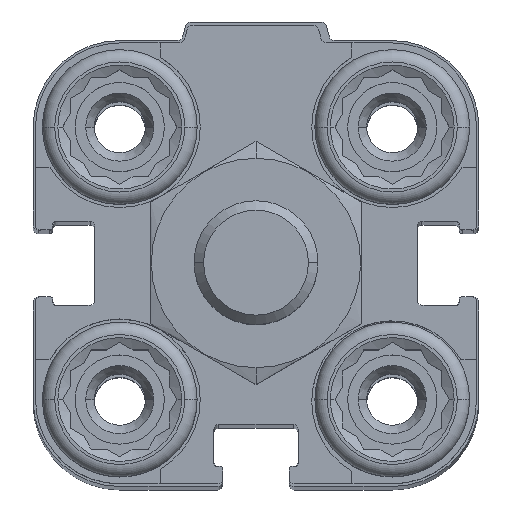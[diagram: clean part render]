
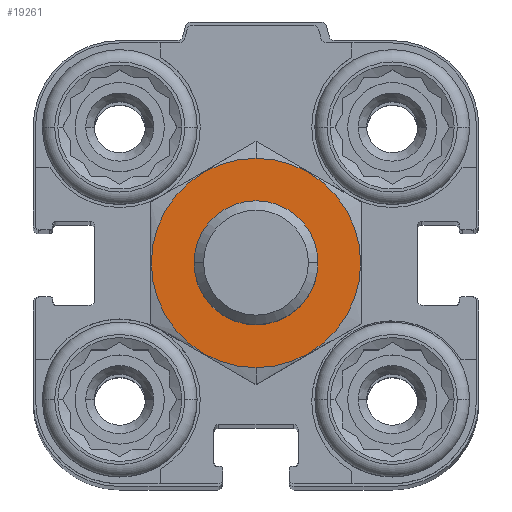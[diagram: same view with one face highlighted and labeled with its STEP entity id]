
A CAD part, top view. The second image highlights one B-rep face of the part: STEP entity #19261.
In plain terms, the highlighted planar face has unit normal (0, 0, 1).
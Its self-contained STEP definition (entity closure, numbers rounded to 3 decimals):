
#1237 = VERTEX_POINT ( 'NONE', #4357 ) ;
#1349 = DIRECTION ( 'NONE',  ( 0., 0., -1. ) ) ;
#1791 = ORIENTED_EDGE ( 'NONE', *, *, #2928, .F. ) ;
#2866 = ORIENTED_EDGE ( 'NONE', *, *, #15396, .T. ) ;
#2928 = EDGE_CURVE ( 'NONE', #3763, #1237, #12877, .T. ) ;
#3064 = CARTESIAN_POINT ( 'NONE',  ( 0., 0., 13.5 ) ) ;
#3763 = VERTEX_POINT ( 'NONE', #10297 ) ;
#4357 = CARTESIAN_POINT ( 'NONE',  ( 0., -8.45, 13.5 ) ) ;
#7074 = AXIS2_PLACEMENT_3D ( 'NONE', #20244, #15302, #13765 ) ;
#7245 = ORIENTED_EDGE ( 'NONE', *, *, #20298, .F. ) ;
#7817 = CARTESIAN_POINT ( 'NONE',  ( 0., 0., 13.5 ) ) ;
#8078 = VERTEX_POINT ( 'NONE', #8638 ) ;
#8110 = DIRECTION ( 'NONE',  ( 0., 0., -1. ) ) ;
#8166 = DIRECTION ( 'NONE',  ( 0., 0., -1. ) ) ;
#8195 = EDGE_CURVE ( 'NONE', #8726, #8078, #8381, .T. ) ;
#8372 = CARTESIAN_POINT ( 'NONE',  ( 0., 0., 13.5 ) ) ;
#8381 = CIRCLE ( 'NONE', #9707, 5. ) ;
#8638 = CARTESIAN_POINT ( 'NONE',  ( 0., 5., 13.5 ) ) ;
#8726 = VERTEX_POINT ( 'NONE', #19971 ) ;
#9329 = DIRECTION ( 'NONE',  ( 0., -1., 0. ) ) ;
#9707 = AXIS2_PLACEMENT_3D ( 'NONE', #7817, #1349, #16108 ) ;
#10297 = CARTESIAN_POINT ( 'NONE',  ( 0., 8.45, 13.5 ) ) ;
#10881 = DIRECTION ( 'NONE',  ( 0., 0., -1. ) ) ;
#11123 = DIRECTION ( 'NONE',  ( 0., -1., 0. ) ) ;
#11569 = AXIS2_PLACEMENT_3D ( 'NONE', #17580, #8110, #11123 ) ;
#11657 = EDGE_LOOP ( 'NONE', ( #2866, #16242 ) ) ;
#12818 = PLANE ( 'NONE',  #20095 ) ;
#12877 = CIRCLE ( 'NONE', #11569, 8.45 ) ;
#13765 = DIRECTION ( 'NONE',  ( 0., -1., 0. ) ) ;
#14557 = FACE_OUTER_BOUND ( 'NONE', #14735, .T. ) ;
#14735 = EDGE_LOOP ( 'NONE', ( #7245, #1791 ) ) ;
#15033 = CIRCLE ( 'NONE', #17982, 5. ) ;
#15302 = DIRECTION ( 'NONE',  ( 0., 0., -1. ) ) ;
#15396 = EDGE_CURVE ( 'NONE', #8078, #8726, #15033, .T. ) ;
#15803 = DIRECTION ( 'NONE',  ( 0., -1., 0. ) ) ;
#16094 = FACE_BOUND ( 'NONE', #11657, .T. ) ;
#16108 = DIRECTION ( 'NONE',  ( 0., -1., 0. ) ) ;
#16242 = ORIENTED_EDGE ( 'NONE', *, *, #8195, .T. ) ;
#16278 = CIRCLE ( 'NONE', #7074, 8.45 ) ;
#17580 = CARTESIAN_POINT ( 'NONE',  ( 0., 0., 13.5 ) ) ;
#17982 = AXIS2_PLACEMENT_3D ( 'NONE', #3064, #10881, #9329 ) ;
#19261 = ADVANCED_FACE ( 'NONE', ( #14557, #16094 ), #12818, .F. ) ;
#19971 = CARTESIAN_POINT ( 'NONE',  ( 0., -5., 13.5 ) ) ;
#20095 = AXIS2_PLACEMENT_3D ( 'NONE', #8372, #8166, #15803 ) ;
#20244 = CARTESIAN_POINT ( 'NONE',  ( 0., 0., 13.5 ) ) ;
#20298 = EDGE_CURVE ( 'NONE', #1237, #3763, #16278, .T. ) ;
